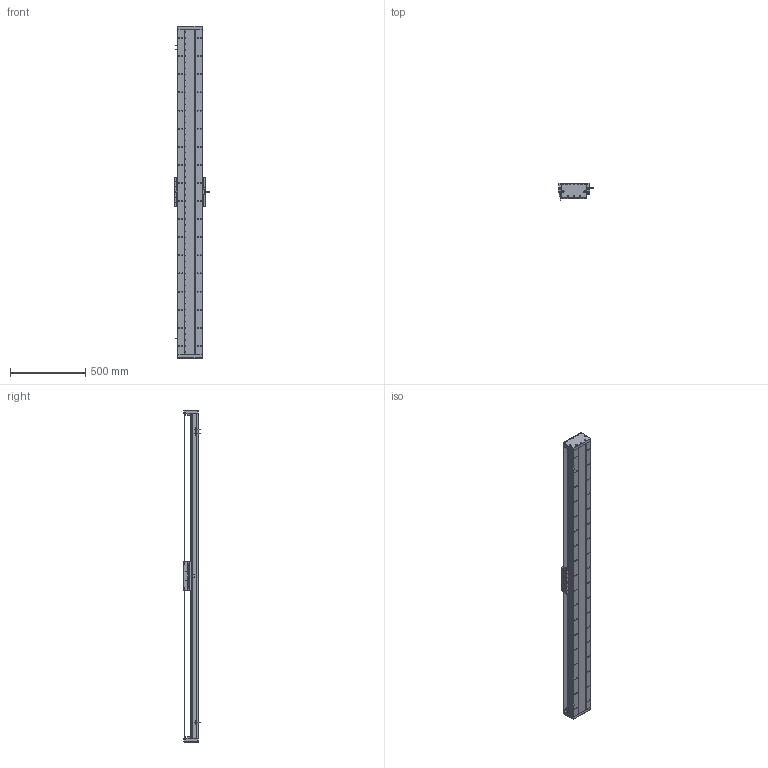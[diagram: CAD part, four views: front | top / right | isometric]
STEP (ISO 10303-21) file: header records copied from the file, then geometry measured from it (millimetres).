
FILE_DESCRIPTION (( 'STEP AP203' ), '1' );
FILE_NAME ('DA-C165-C2-T1920-C010-0.2 直线电机.STEP', '2023-05-11T07:44:12', ( '微软用户' ), ( '微软中国' ), 'SwSTEP 2.0', 'SolidWorks 2019', '' );
FILE_SCHEMA (( 'CONFIG_CONTROL_DESIGN' ));
Length unit declared in the file: millimetre
Products named in the file (18): 葩璃 DA95-GT-T-00^IU-CU165-L 菁釱絳寢_T; 复件 DA165-GDLK-00 钢带拉块^复件 CU165钢带组件_DA-C165-C2-T-C010-0.2-N 直线电机; 葩璃 PM-T45^DA-C165-C2-T-C010-0.2-N 眻盄萇儂; 葩璃 CKM01-W075-TRL^DA-C165-C2-T-C010-0.2-N 眻盄萇儂; IU-CU165-L-00 菁釱_L2160; 复件 DA165-GD-1860-002-00 钢带盖板^复件 CU165钢带组件_DA-C165-C2-T-C010-0.2-N 直线电机; 复件 DA165-GDYK-00 钢带压块^复件 CU165钢带组件_DA-C165-C2-T-C010-0.2-N 直线电机; 复件 DA165-GYP-00 光电感应片^DA-C165-C2-T-C010-0.2-N 直线电机; 复件 六角薄螺母 M3^DA-C165-C2-T-C010-0.2-N 直线电机_GB_FASTENER_NUT_STNAB M3-C; 复件 DA165-GD-DG-H-00 端盖^复件 CU165钢带组件_DA-C165-C2-T-C010-0.2-N 直线电机; 复件 XD-U-02L 磁栅尺^DA-C165-C2-T-C010-0.2-N 直线电机_T; 复件 CKM02-W075-C1C2-TP-3.0 一体电机-C2^DA-C165-C2-T-C010-0.2-N 直线电机; 复件 DA95-HXJ-00 缓冲橡胶^DA-C165-C2-T-C010-0.2-N 直线电机; DA-C165-C2-T1920-C010-0.2 眻盄萇儂; 复件 CU165钢带组件^DA-C165-C2-T-C010-0.2-N 直线电机; IU-CU165-L 菁釱絳寢; 珨极趙賑雄怢啣wf-C2; 复件 DMA-010-0.2 读数头^DA-C165-C2-T-C010-0.2-N 直线电机
Assembly tree (33 placements, depth 3):
  DA-C165-C2-T1920-C010-0.2 眻盄萇儂
    IU-CU165-L 菁釱絳寢
      IU-CU165-L-00 菁釱_L2160
      葩璃 DA95-GT-T-00^IU-CU165-L 菁釱絳寢_T  x4
    复件 XD-U-02L 磁栅尺^DA-C165-C2-T-C010-0.2-N 直线电机_T
    葩璃 PM-T45^DA-C165-C2-T-C010-0.2-N 眻盄萇儂  x3
    葩璃 CKM01-W075-TRL^DA-C165-C2-T-C010-0.2-N 眻盄萇儂
    复件 CU165钢带组件^DA-C165-C2-T-C010-0.2-N 直线电机
      复件 DA165-GD-DG-H-00 端盖^复件 CU165钢带组件_DA-C165-C2-T-C010-0.2-N 直线电机  x2
      复件 DA165-GDYK-00 钢带压块^复件 CU165钢带组件_DA-C165-C2-T-C010-0.2-N 直线电机  x2
      复件 DA165-GD-1860-002-00 钢带盖板^复件 CU165钢带组件_DA-C165-C2-T-C010-0.2-N 直线电机
      复件 DA165-GDLK-00 钢带拉块^复件 CU165钢带组件_DA-C165-C2-T-C010-0.2-N 直线电机  x2
    复件 DA95-HXJ-00 缓冲橡胶^DA-C165-C2-T-C010-0.2-N 直线电机  x4
    复件 DA165-GYP-00 光电感应片^DA-C165-C2-T-C010-0.2-N 直线电机
    复件 DMA-010-0.2 读数头^DA-C165-C2-T-C010-0.2-N 直线电机
    复件 CKM02-W075-C1C2-TP-3.0 一体电机-C2^DA-C165-C2-T-C010-0.2-N 直线电机
    复件 六角薄螺母 M3^DA-C165-C2-T-C010-0.2-N 直线电机_GB_FASTENER_NUT_STNAB M3-C  x6
    珨极趙賑雄怢啣wf-C2
Bounding box: 233 x 111.45 x 2200 mm (x, y, z)
Volume: 12576402.4 mm3; surface area: 3742544.9 mm2
Topology: 70 solids, 70 shells, 3667 faces, 10591 edges, 6741 vertices
Faces by surface type: cylinder 2101, plane 1086, cone 430, torus 46, sphere 4
Entity records: 120167 total; most frequent: CARTESIAN_POINT 31513, ORIENTED_EDGE 18354, DIRECTION 17911, EDGE_CURVE 9177, AXIS2_PLACEMENT_3D 6827, VERTEX_POINT 5977, VECTOR 4257, LINE 4257
